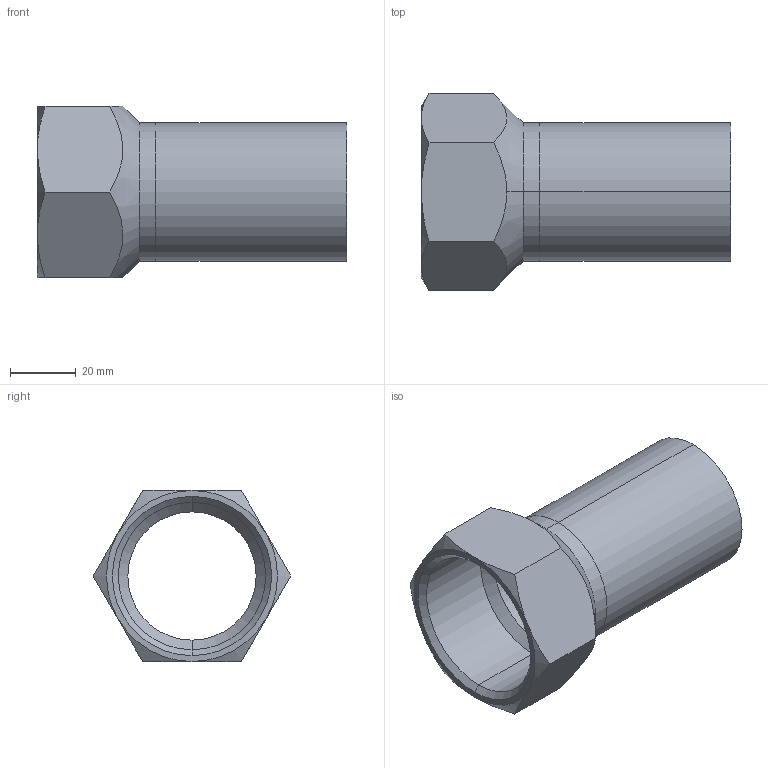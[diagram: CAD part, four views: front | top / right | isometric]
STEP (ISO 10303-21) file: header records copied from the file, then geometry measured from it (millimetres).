
FILE_DESCRIPTION (( 'STEP AP203' ), '1' );
FILE_NAME ('GDA6395.STEP', '2019-01-14T06:28:06', ( '' ), ( '' ), 'SwSTEP 2.0', 'SolidWorks 2015', '' );
FILE_SCHEMA (( 'CONFIG_CONTROL_DESIGN' ));
Length unit declared in the file: millimetre
Products named in the file (3): ITC-I-03-42×1?; 42; GDA6395
Assembly tree (2 placements, depth 2):
  GDA6395
    42
    ITC-I-03-42×1?
Bounding box: 94 x 60.04 x 52 mm (x, y, z)
Volume: 33848.5 mm3; surface area: 27341.2 mm2
Topology: 2 solids, 2 shells, 32 faces, 70 edges, 42 vertices
Faces by surface type: cone 12, cylinder 10, plane 10
Entity records: 1335 total; most frequent: CARTESIAN_POINT 341, DIRECTION 152, ORIENTED_EDGE 140, EDGE_CURVE 70, AXIS2_PLACEMENT_3D 65, VERTEX_POINT 42, EDGE_LOOP 36, FACE_OUTER_BOUND 32
